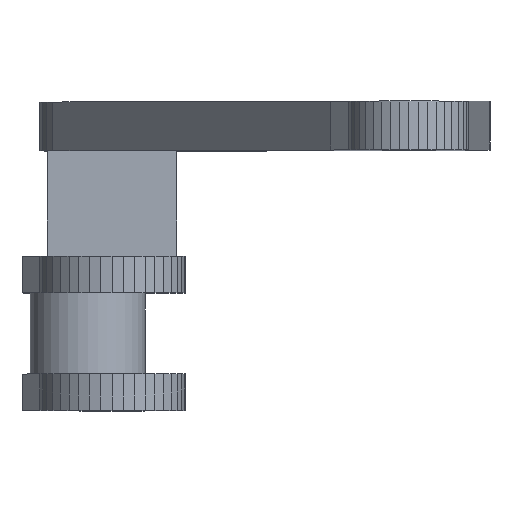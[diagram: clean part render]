
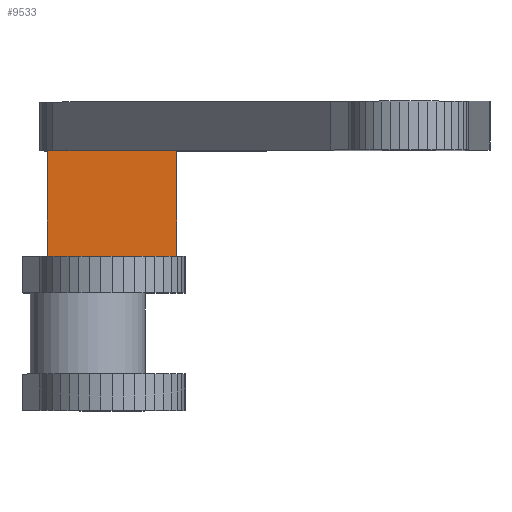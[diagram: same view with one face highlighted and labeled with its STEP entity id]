
A CAD part, top view. The second image highlights one B-rep face of the part: STEP entity #9533.
In plain terms, the highlighted planar face has unit normal (0, 0, 1).
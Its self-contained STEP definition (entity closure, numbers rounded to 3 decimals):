
#5068 = PLANE('',#5069);
#5069 = AXIS2_PLACEMENT_3D('',#5070,#5071,#5072);
#5070 = CARTESIAN_POINT('',(23.667,55.2,-235.846));
#5071 = DIRECTION('',(-0.,-1.,-0.));
#5072 = DIRECTION('',(0.,0.,-1.));
#7385 = VERTEX_POINT('',#7386);
#7386 = CARTESIAN_POINT('',(16.,55.2,-211.848));
#7400 = PLANE('',#7401);
#7401 = AXIS2_PLACEMENT_3D('',#7402,#7403,#7404);
#7402 = CARTESIAN_POINT('',(16.,55.2,-259.848));
#7403 = DIRECTION('',(1.,0.,0.));
#7404 = DIRECTION('',(0.,0.,1.));
#7412 = EDGE_CURVE('',#7385,#7413,#7415,.T.);
#7413 = VERTEX_POINT('',#7414);
#7414 = CARTESIAN_POINT('',(32.,55.2,-211.848));
#7415 = SURFACE_CURVE('',#7416,(#7420,#7427),.PCURVE_S1.);
#7416 = LINE('',#7417,#7418);
#7417 = CARTESIAN_POINT('',(16.,55.2,-211.848));
#7418 = VECTOR('',#7419,1.);
#7419 = DIRECTION('',(1.,0.,0.));
#7420 = PCURVE('',#5068,#7421);
#7421 = DEFINITIONAL_REPRESENTATION('',(#7422),#7426);
#7422 = LINE('',#7423,#7424);
#7423 = CARTESIAN_POINT('',(-23.998,-7.667));
#7424 = VECTOR('',#7425,1.);
#7425 = DIRECTION('',(0.,1.));
#7426 = ( GEOMETRIC_REPRESENTATION_CONTEXT(2) 
PARAMETRIC_REPRESENTATION_CONTEXT() REPRESENTATION_CONTEXT('2D SPACE',''
  ) );
#7427 = PCURVE('',#7428,#7433);
#7428 = PLANE('',#7429);
#7429 = AXIS2_PLACEMENT_3D('',#7430,#7431,#7432);
#7430 = CARTESIAN_POINT('',(16.,55.2,-211.848));
#7431 = DIRECTION('',(0.,0.,1.));
#7432 = DIRECTION('',(1.,0.,0.));
#7433 = DEFINITIONAL_REPRESENTATION('',(#7434),#7438);
#7434 = LINE('',#7435,#7436);
#7435 = CARTESIAN_POINT('',(0.,0.));
#7436 = VECTOR('',#7437,1.);
#7437 = DIRECTION('',(1.,0.));
#7438 = ( GEOMETRIC_REPRESENTATION_CONTEXT(2) 
PARAMETRIC_REPRESENTATION_CONTEXT() REPRESENTATION_CONTEXT('2D SPACE',''
  ) );
#7456 = PLANE('',#7457);
#7457 = AXIS2_PLACEMENT_3D('',#7458,#7459,#7460);
#7458 = CARTESIAN_POINT('',(32.,55.2,-259.848));
#7459 = DIRECTION('',(1.,0.,0.));
#7460 = DIRECTION('',(0.,0.,1.));
#9342 = EDGE_CURVE('',#7385,#9343,#9345,.T.);
#9343 = VERTEX_POINT('',#9344);
#9344 = CARTESIAN_POINT('',(16.,68.2,-211.848));
#9345 = SURFACE_CURVE('',#9346,(#9350,#9357),.PCURVE_S1.);
#9346 = LINE('',#9347,#9348);
#9347 = CARTESIAN_POINT('',(16.,55.2,-211.848));
#9348 = VECTOR('',#9349,1.);
#9349 = DIRECTION('',(0.,1.,0.));
#9350 = PCURVE('',#7400,#9351);
#9351 = DEFINITIONAL_REPRESENTATION('',(#9352),#9356);
#9352 = LINE('',#9353,#9354);
#9353 = CARTESIAN_POINT('',(48.,0.));
#9354 = VECTOR('',#9355,1.);
#9355 = DIRECTION('',(0.,-1.));
#9356 = ( GEOMETRIC_REPRESENTATION_CONTEXT(2) 
PARAMETRIC_REPRESENTATION_CONTEXT() REPRESENTATION_CONTEXT('2D SPACE',''
  ) );
#9357 = PCURVE('',#7428,#9358);
#9358 = DEFINITIONAL_REPRESENTATION('',(#9359),#9363);
#9359 = LINE('',#9360,#9361);
#9360 = CARTESIAN_POINT('',(0.,0.));
#9361 = VECTOR('',#9362,1.);
#9362 = DIRECTION('',(0.,1.));
#9363 = ( GEOMETRIC_REPRESENTATION_CONTEXT(2) 
PARAMETRIC_REPRESENTATION_CONTEXT() REPRESENTATION_CONTEXT('2D SPACE',''
  ) );
#9425 = PLANE('',#9426);
#9426 = AXIS2_PLACEMENT_3D('',#9427,#9428,#9429);
#9427 = CARTESIAN_POINT('',(41.866,68.2,-206.351));
#9428 = DIRECTION('',(-0.,-1.,-0.));
#9429 = DIRECTION('',(0.,0.,-1.));
#9492 = VERTEX_POINT('',#9493);
#9493 = CARTESIAN_POINT('',(32.,68.2,-211.848));
#9513 = EDGE_CURVE('',#9492,#7413,#9514,.T.);
#9514 = SURFACE_CURVE('',#9515,(#9519,#9526),.PCURVE_S1.);
#9515 = LINE('',#9516,#9517);
#9516 = CARTESIAN_POINT('',(32.,68.2,-211.848));
#9517 = VECTOR('',#9518,1.);
#9518 = DIRECTION('',(0.,-1.,0.));
#9519 = PCURVE('',#7456,#9520);
#9520 = DEFINITIONAL_REPRESENTATION('',(#9521),#9525);
#9521 = LINE('',#9522,#9523);
#9522 = CARTESIAN_POINT('',(48.,-13.));
#9523 = VECTOR('',#9524,1.);
#9524 = DIRECTION('',(0.,1.));
#9525 = ( GEOMETRIC_REPRESENTATION_CONTEXT(2) 
PARAMETRIC_REPRESENTATION_CONTEXT() REPRESENTATION_CONTEXT('2D SPACE',''
  ) );
#9526 = PCURVE('',#7428,#9527);
#9527 = DEFINITIONAL_REPRESENTATION('',(#9528),#9532);
#9528 = LINE('',#9529,#9530);
#9529 = CARTESIAN_POINT('',(16.,13.));
#9530 = VECTOR('',#9531,1.);
#9531 = DIRECTION('',(0.,-1.));
#9532 = ( GEOMETRIC_REPRESENTATION_CONTEXT(2) 
PARAMETRIC_REPRESENTATION_CONTEXT() REPRESENTATION_CONTEXT('2D SPACE',''
  ) );
#9533 = ADVANCED_FACE('',(#9534),#7428,.T.);
#9534 = FACE_BOUND('',#9535,.T.);
#9535 = EDGE_LOOP('',(#9536,#9537,#9538,#9539));
#9536 = ORIENTED_EDGE('',*,*,#9342,.F.);
#9537 = ORIENTED_EDGE('',*,*,#7412,.T.);
#9538 = ORIENTED_EDGE('',*,*,#9513,.F.);
#9539 = ORIENTED_EDGE('',*,*,#9540,.T.);
#9540 = EDGE_CURVE('',#9492,#9343,#9541,.T.);
#9541 = SURFACE_CURVE('',#9542,(#9546,#9553),.PCURVE_S1.);
#9542 = LINE('',#9543,#9544);
#9543 = CARTESIAN_POINT('',(28.933,68.2,-211.848));
#9544 = VECTOR('',#9545,1.);
#9545 = DIRECTION('',(-1.,0.,0.));
#9546 = PCURVE('',#7428,#9547);
#9547 = DEFINITIONAL_REPRESENTATION('',(#9548),#9552);
#9548 = LINE('',#9549,#9550);
#9549 = CARTESIAN_POINT('',(12.933,13.));
#9550 = VECTOR('',#9551,1.);
#9551 = DIRECTION('',(-1.,0.));
#9552 = ( GEOMETRIC_REPRESENTATION_CONTEXT(2) 
PARAMETRIC_REPRESENTATION_CONTEXT() REPRESENTATION_CONTEXT('2D SPACE',''
  ) );
#9553 = PCURVE('',#9425,#9554);
#9554 = DEFINITIONAL_REPRESENTATION('',(#9555),#9558);
#9555 = B_SPLINE_CURVE_WITH_KNOTS('',1,(#9556,#9557),.UNSPECIFIED.,.F.,
  .F.,(2,2),(-3.067,12.933),.PIECEWISE_BEZIER_KNOTS.);
#9556 = CARTESIAN_POINT('',(5.497,-9.866));
#9557 = CARTESIAN_POINT('',(5.497,-25.866));
#9558 = ( GEOMETRIC_REPRESENTATION_CONTEXT(2) 
PARAMETRIC_REPRESENTATION_CONTEXT() REPRESENTATION_CONTEXT('2D SPACE',''
  ) );
